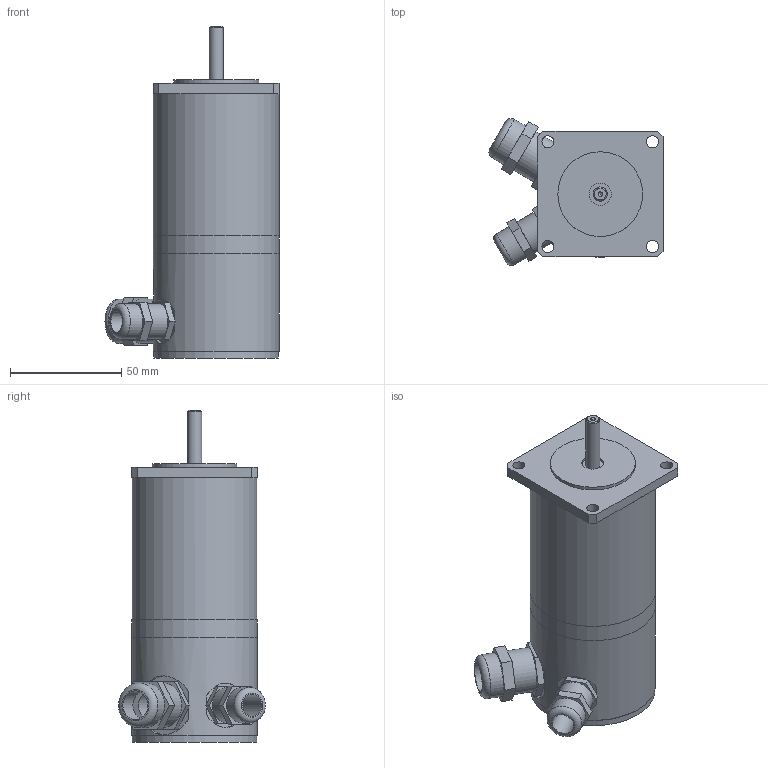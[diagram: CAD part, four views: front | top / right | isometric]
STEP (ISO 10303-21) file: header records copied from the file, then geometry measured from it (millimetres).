
FILE_DESCRIPTION((''),'2;1');
FILE_NAME('C:\Users\Reinhard\Documents\Inventor\Testschrittmotor\SM56\SM 56.2-H200-KV.stp','2012-11-14T20:50:16',('Reinhard'),(''),'Autodesk Inventor 2012','Autodesk Inventor 2012','');
FILE_SCHEMA(('CONFIG_CONTROL_DESIGN'));
Length unit declared in the file: millimetre
Products named in the file (1): SM 56
Bounding box: 78.27 x 66.07 x 149.3 mm (x, y, z)
Volume: 98461.2 mm3; surface area: 60941.9 mm2
Topology: 2 solids, 3 shells, 108 faces, 240 edges, 155 vertices
Faces by surface type: plane 71, cylinder 33, torus 2, cone 2
Full cylindrical faces by diameter (mm): 2 x1, 5.4 x4, 6.35 x2, 10 x2, 12 x2, 13 x2, 15 x2, 16 x2, 18.376 x1, 20 x3, 38.1 x1, 48 x1, 51.5 x1, 53.5 x1, 56 x1, 56.5 x3
Entity records: 2936 total; most frequent: CARTESIAN_POINT 589, DIRECTION 476, ORIENTED_EDGE 402, EDGE_CURVE 201, AXIS2_PLACEMENT_3D 176, EDGE_LOOP 174, VERTEX_POINT 149, VECTOR 124
